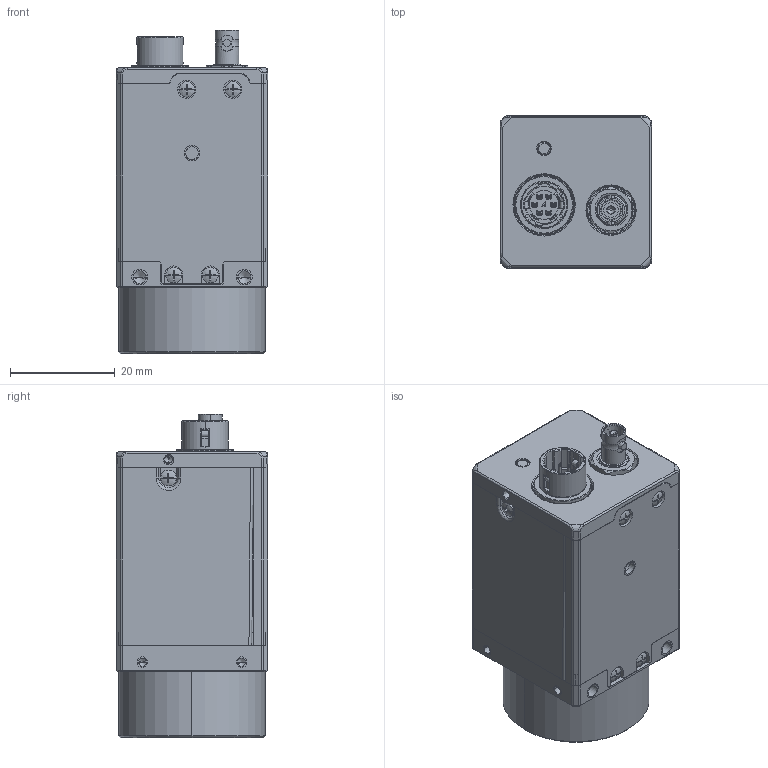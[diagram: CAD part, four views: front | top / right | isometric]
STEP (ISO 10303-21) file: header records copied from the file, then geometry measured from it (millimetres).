
FILE_DESCRIPTION((''),'2;1');
FILE_NAME('00-CXP-CU0_ASM_ASM_ASM','2026-03-04T20:28:53',('gengdawei'),(''),'CREO PARAMETRIC BY PTC INC, 2020044','CREO PARAMETRIC BY PTC INC, 2020044','');
FILE_SCHEMA(('CONFIG_CONTROL_DESIGN'));
Products named in the file (18): DE-13-002304B_43_1; LGP_YABAN_35_3_1; LVGUANGPIAN_5_2_1; CXP0001_ASM_36_ASM_1_ASM; SC-T1M2X3NL-B_11_1; 00-0505-0001_ASM_64_ASM_1_ASM; D-01-35-26-0837_12_1; DE-13-002732_50_1; 0001_ASM_77_ASM_1_ASM; CXP000_ASM_14_ASM_1_ASM; CXP0002_ASM_9_ASM_1_ASM; DE-14-092931_19_1; 0002_ASM_16_ASM_1_ASM; DE-11-012833_3_1; 00-CXP-CU0_ASM_47_ASM_1_ASM; 00-CXP-CU0_ASM_ASM_1_ASM; MV-20000REV13-0116-11-20260116; 00-CXP-CU0_ASM_ASM_ASM
Assembly tree (23 placements, depth 7):
  00-CXP-CU0_ASM_ASM_ASM
    00-CXP-CU0_ASM_ASM_1_ASM
      00-CXP-CU0_ASM_47_ASM_1_ASM
        00-0505-0001_ASM_64_ASM_1_ASM
          CXP0001_ASM_36_ASM_1_ASM
            DE-13-002304B_43_1
            LGP_YABAN_35_3_1
            LVGUANGPIAN_5_2_1
          SC-T1M2X3NL-B_11_1
        CXP0002_ASM_9_ASM_1_ASM
          CXP000_ASM_14_ASM_1_ASM
            0001_ASM_77_ASM_1_ASM
              D-01-35-26-0837_12_1
              DE-13-002732_50_1
        0002_ASM_16_ASM_1_ASM
          DE-14-092931_19_1
          SC-T1M2X3NL-B_11_1  x4
        DE-11-012833_3_1
        SC-T1M2X3NL-B_11_1  x2
    MV-20000REV13-0116-11-20260116
Bounding box: 29 x 29 x 61.76 mm (x, y, z)
Volume: 12904.8 mm3; surface area: 21152.7 mm2
Topology: 15 solids, 57 shells, 2867 faces, 8195 edges, 5336 vertices
Faces by surface type: plane 1370, cylinder 875, bspline 246, cone 212, torus 147, sphere 14, extrusion 3
Entity records: 121123 total; most frequent: CARTESIAN_POINT 54807, ORIENTED_EDGE 14673, DIRECTION 12616, EDGE_CURVE 7439, VERTEX_POINT 4900, AXIS2_PLACEMENT_3D 4442, VECTOR 3732, LINE 3729
